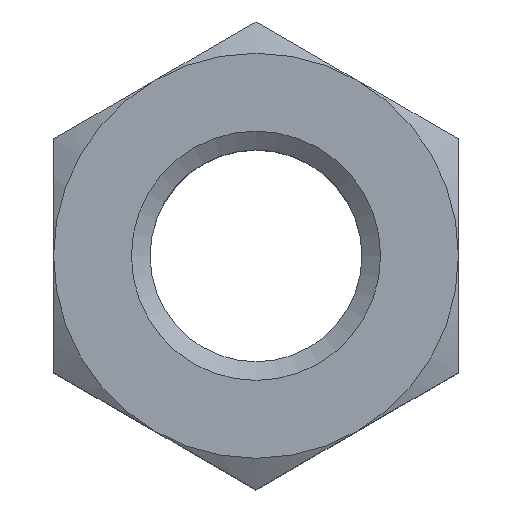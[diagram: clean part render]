
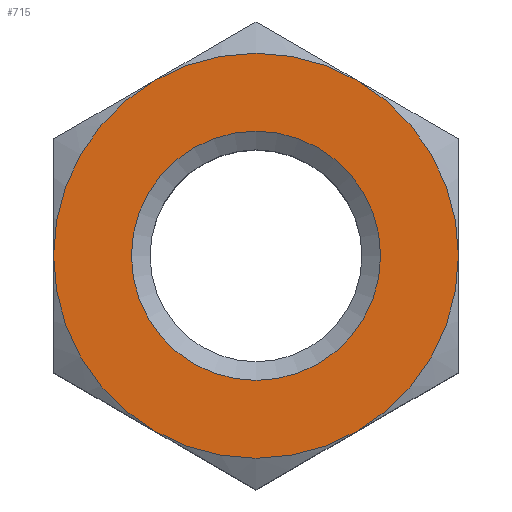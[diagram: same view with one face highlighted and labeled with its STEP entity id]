
A CAD part, top view. The second image highlights one B-rep face of the part: STEP entity #715.
In plain terms, the highlighted planar face has unit normal (0, 0, 1).
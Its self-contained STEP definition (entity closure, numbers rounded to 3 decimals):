
#8 = AXIS2_PLACEMENT_3D ( 'NONE', #238, #428, #134 ) ;
#13 = ORIENTED_EDGE ( 'NONE', *, *, #132, .F. ) ;
#20 = AXIS2_PLACEMENT_3D ( 'NONE', #710, #43, #219 ) ;
#36 = CARTESIAN_POINT ( 'NONE',  ( 0., 7.506, 0. ) ) ;
#43 = DIRECTION ( 'NONE',  ( 0., 0., -1. ) ) ;
#53 = EDGE_CURVE ( 'NONE', #140, #140, #553, .T. ) ;
#54 = CARTESIAN_POINT ( 'NONE',  ( -3.25, 5.629, 0. ) ) ;
#56 = VERTEX_POINT ( 'NONE', #760 ) ;
#65 = EDGE_LOOP ( 'NONE', ( #741 ) ) ;
#68 = EDGE_CURVE ( 'NONE', #156, #597, #627, .T. ) ;
#78 = ORIENTED_EDGE ( 'NONE', *, *, #181, .F. ) ;
#80 = EDGE_CURVE ( 'NONE', #172, #382, #314, .T. ) ;
#86 = EDGE_LOOP ( 'NONE', ( #121, #13, #78, #529, #307, #424 ) ) ;
#121 = ORIENTED_EDGE ( 'NONE', *, *, #68, .F. ) ;
#126 = AXIS2_PLACEMENT_3D ( 'NONE', #466, #702, #756 ) ;
#132 = EDGE_CURVE ( 'NONE', #257, #156, #494, .T. ) ;
#134 = DIRECTION ( 'NONE',  ( -1., 0., 0. ) ) ;
#140 = VERTEX_POINT ( 'NONE', #379 ) ;
#146 = DIRECTION ( 'NONE',  ( 1., 0., 0. ) ) ;
#156 = VERTEX_POINT ( 'NONE', #166 ) ;
#165 = DIRECTION ( 'NONE',  ( -1., 0., 0. ) ) ;
#166 = CARTESIAN_POINT ( 'NONE',  ( -6.5, 0., 0. ) ) ;
#172 = VERTEX_POINT ( 'NONE', #661 ) ;
#181 = EDGE_CURVE ( 'NONE', #56, #257, #369, .T. ) ;
#207 = AXIS2_PLACEMENT_3D ( 'NONE', #36, #280, #165 ) ;
#216 = PLANE ( 'NONE',  #207 ) ;
#219 = DIRECTION ( 'NONE',  ( -1., 0., 0. ) ) ;
#238 = CARTESIAN_POINT ( 'NONE',  ( 0., 0., 0. ) ) ;
#257 = VERTEX_POINT ( 'NONE', #318 ) ;
#280 = DIRECTION ( 'NONE',  ( 0., 0., -1. ) ) ;
#300 = AXIS2_PLACEMENT_3D ( 'NONE', #386, #677, #304 ) ;
#304 = DIRECTION ( 'NONE',  ( -1., 0., 0. ) ) ;
#306 = EDGE_CURVE ( 'NONE', #597, #382, #706, .T. ) ;
#307 = ORIENTED_EDGE ( 'NONE', *, *, #80, .T. ) ;
#314 = CIRCLE ( 'NONE', #602, 6.5 ) ;
#318 = CARTESIAN_POINT ( 'NONE',  ( -3.25, -5.629, 0. ) ) ;
#339 = AXIS2_PLACEMENT_3D ( 'NONE', #389, #689, #564 ) ;
#369 = CIRCLE ( 'NONE', #642, 6.5 ) ;
#379 = CARTESIAN_POINT ( 'NONE',  ( 4., 0., 0. ) ) ;
#382 = VERTEX_POINT ( 'NONE', #621 ) ;
#386 = CARTESIAN_POINT ( 'NONE',  ( 0., 0., 0. ) ) ;
#389 = CARTESIAN_POINT ( 'NONE',  ( 0., 0., 0. ) ) ;
#424 = ORIENTED_EDGE ( 'NONE', *, *, #306, .F. ) ;
#426 = FACE_BOUND ( 'NONE', #65, .T. ) ;
#428 = DIRECTION ( 'NONE',  ( 0., 0., -1. ) ) ;
#462 = CARTESIAN_POINT ( 'NONE',  ( 0., 0., 0. ) ) ;
#466 = CARTESIAN_POINT ( 'NONE',  ( 0., 0., 0. ) ) ;
#494 = CIRCLE ( 'NONE', #20, 6.5 ) ;
#529 = ORIENTED_EDGE ( 'NONE', *, *, #759, .F. ) ;
#532 = DIRECTION ( 'NONE',  ( -1., 0., 0. ) ) ;
#553 = CIRCLE ( 'NONE', #126, 4. ) ;
#564 = DIRECTION ( 'NONE',  ( -1., 0., 0. ) ) ;
#596 = CARTESIAN_POINT ( 'NONE',  ( 0., 0., 0. ) ) ;
#597 = VERTEX_POINT ( 'NONE', #54 ) ;
#602 = AXIS2_PLACEMENT_3D ( 'NONE', #462, #695, #146 ) ;
#621 = CARTESIAN_POINT ( 'NONE',  ( 3.25, 5.629, 0. ) ) ;
#627 = CIRCLE ( 'NONE', #339, 6.5 ) ;
#642 = AXIS2_PLACEMENT_3D ( 'NONE', #596, #713, #532 ) ;
#660 = FACE_OUTER_BOUND ( 'NONE', #86, .T. ) ;
#661 = CARTESIAN_POINT ( 'NONE',  ( 6.5, 0., 0. ) ) ;
#677 = DIRECTION ( 'NONE',  ( 0., 0., -1. ) ) ;
#689 = DIRECTION ( 'NONE',  ( 0., 0., -1. ) ) ;
#695 = DIRECTION ( 'NONE',  ( 0., 0., 1. ) ) ;
#702 = DIRECTION ( 'NONE',  ( 0., 0., 1. ) ) ;
#706 = CIRCLE ( 'NONE', #300, 6.5 ) ;
#710 = CARTESIAN_POINT ( 'NONE',  ( 0., 0., 0. ) ) ;
#713 = DIRECTION ( 'NONE',  ( 0., 0., -1. ) ) ;
#715 = ADVANCED_FACE ( 'NONE', ( #426, #660 ), #216, .F. ) ;
#732 = CIRCLE ( 'NONE', #8, 6.5 ) ;
#741 = ORIENTED_EDGE ( 'NONE', *, *, #53, .F. ) ;
#756 = DIRECTION ( 'NONE',  ( 1., 0., 0. ) ) ;
#759 = EDGE_CURVE ( 'NONE', #172, #56, #732, .T. ) ;
#760 = CARTESIAN_POINT ( 'NONE',  ( 3.25, -5.629, 0. ) ) ;
